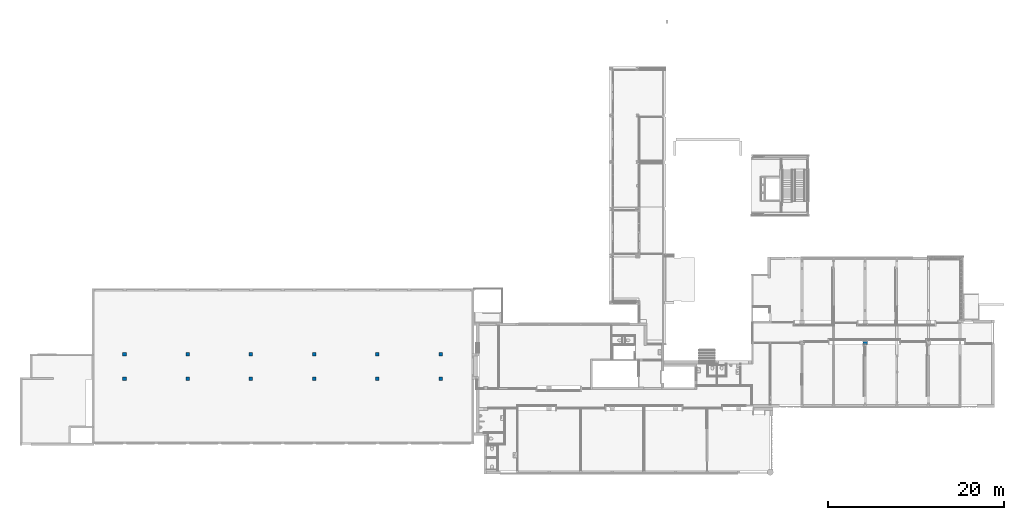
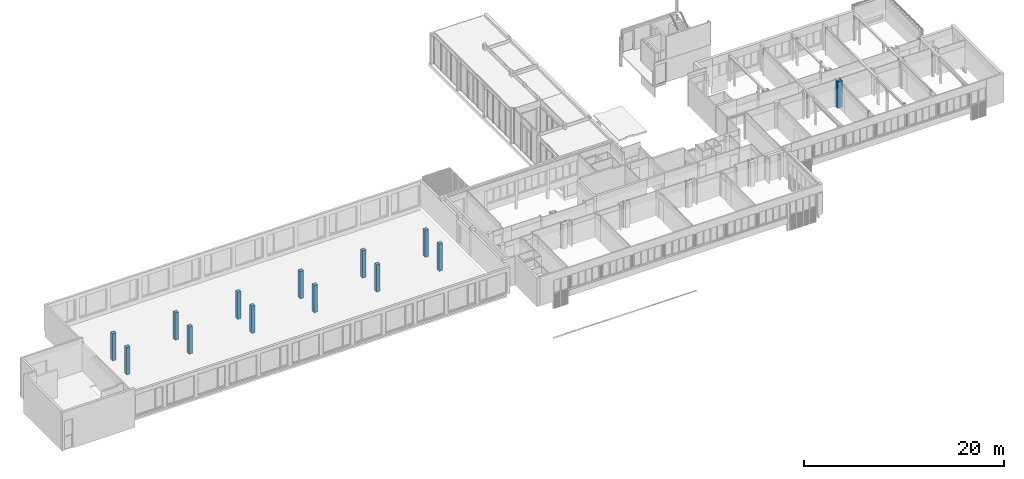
# One storey, part 1 of 99: 14 columns.
"""IFC2X3 building model written with IfcOpenShell, lengths in millimetres."""

from ifc_helpers import new_model, entity, si_unit, converted_unit, derived_unit, money_unit, direction, frame, origin_with_axes, place, context, subcontext, project, spatial, faceted_brep, source, transform, mapped, material, type_object, type_shapes, element, save


model = new_model("IFC2X3")

# Units and contexts
model_context = context("Model", 3, precision=0.01, world=origin_with_axes(), true_north=direction((0.0, 1.0)))
body_context = subcontext(model_context, "Body", "Model", "MODEL_VIEW")
ifc_project = project(units=[si_unit("LENGTHUNIT", "METRE", prefix="MILLI"), si_unit("AREAUNIT", "SQUARE_METRE"), si_unit("VOLUMEUNIT", "CUBIC_METRE"), converted_unit("PLANEANGLEUNIT", "DEGREE", entity("IfcPlaneAngleMeasure", 0.0174532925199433), si_unit("PLANEANGLEUNIT", "RADIAN"), dimensions=[0, 0, 0, 0, 0, 0, 0]), money_unit("EUR"), converted_unit("TIMEUNIT", "Year", entity("IfcTimeMeasure", 31557600.0), si_unit("TIMEUNIT", "SECOND"), dimensions=[0, 0, 1, 0, 0, 0, 0]), si_unit("MASSUNIT", "GRAM", prefix="KILO"), si_unit("THERMODYNAMICTEMPERATUREUNIT", "DEGREE_CELSIUS"), si_unit("LUMINOUSINTENSITYUNIT", "LUMEN"), si_unit("ENERGYUNIT", "JOULE", prefix="MEGA"), derived_unit("THERMALCONDUCTANCEUNIT", [(si_unit("POWERUNIT", "WATT"), 1), (si_unit("LENGTHUNIT", "METRE"), -1), (si_unit("THERMODYNAMICTEMPERATUREUNIT", "KELVIN"), -1)]), derived_unit("SPECIFICHEATCAPACITYUNIT", [(si_unit("ENERGYUNIT", "JOULE"), 1), (si_unit("MASSUNIT", "GRAM", prefix="KILO"), -1), (si_unit("THERMODYNAMICTEMPERATUREUNIT", "KELVIN"), -1)]), derived_unit("MASSDENSITYUNIT", [(si_unit("MASSUNIT", "GRAM", prefix="KILO"), 1), (si_unit("VOLUMEUNIT", "CUBIC_METRE"), -1)])], contexts=[model_context])

# Site, building, storey
site_placement = place(None, origin_with_axes())
site = spatial("IfcSite", under=ifc_project, at=site_placement, Name="Site", CompositionType="ELEMENT")
building_placement = place(site_placement, origin_with_axes())
building = spatial("IfcBuilding", under=site, at=building_placement, Name="Naam gebouw", CompositionType="ELEMENT")
storey_placement = place(building_placement, frame((0.0, 0.0, 7650.0), z_axis=(0.0, 0.0, 1.0), x_axis=(1.0, 0.0, 0.0)))
storey = spatial("IfcBuildingStorey", under=building, at=storey_placement, Name="2e verdieping N", CompositionType="ELEMENT", Elevation=7650.0)

# Columns
ifc_material = material(Name="ALG - CONSTRUCTIEF")
column_type_1 = type_object("IfcColumnType", Name="ALG - CONSTRUCTIEF 540 x 310", PredefinedType="COLUMN")
shared_shape = source(origin_with_axes(), body_context, "Body", "Brep", [
    faceted_brep([(43469.99999999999, 17870.91242510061, 10850.0), (43469.99999999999, 17870.91242510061, 7650.0), (43469.99999999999, 18180.91242510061, 7650.0), (43469.99999999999, 18180.91242510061, 10850.0), (42929.99999999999, 17870.91242510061, 10850.0), (42929.99999999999, 17870.91242510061, 7650.0), (42929.99999999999, 18180.91242510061, 7650.0), (42929.99999999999, 18180.91242510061, 10850.0)], [[[0, 1, 2, 3]], [[4, 5, 1, 0]], [[5, 6, 2, 1]], [[3, 2, 6, 7]], [[4, 0, 3, 7]], [[7, 6, 5, 4]]]),
])
type_shapes(column_type_1, [shared_shape])
for number, where, z_axis, x_axis, name in (
    (1, (43199.99999999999, 18025.91242510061, -99.99999999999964), (0.0, 0.0, 1.0), (1.0, 0.0, 0.0), "_Kolom-x"),
    (2, (43199.99999999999, 18025.91242510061, -99.99999999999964), (0.0, 0.0, 1.0), (1.0, 0.0, 0.0), "_Kolom-x"),
):
    element("IfcColumn", number, at=place(storey_placement, frame(where, z_axis=z_axis, x_axis=x_axis)), inside=storey, type_object=column_type_1, material=ifc_material, Name=name, ObjectType="COLUMN", context=body_context, shape_type="MappedRepresentation", body=[
        mapped(shared_shape, transform((-43199.99999999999, -18025.91242510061, -7550.000000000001))),
    ])
column_type_2 = type_object("IfcColumnType", Name="ALG - CONSTRUCTIEF 400 x 400", PredefinedType="COLUMN")
column_1_placement = place(storey_placement, frame((-5150.0, 16765.57502437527, -539.9999999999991), z_axis=(0.0, 0.0, 1.0), x_axis=(1.0, 0.0, 0.0)))
element("IfcColumn", 3, at=column_1_placement, inside=storey, type_object=column_type_2, material=ifc_material, Name="_Kolom-x", ObjectType="COLUMN", context=body_context, shape_type="Brep", body=[
    faceted_brep([(200.0000000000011, -199.9999999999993, 3400.0), (200.0000000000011, -199.9999999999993, 79.99999999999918), (200.0000000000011, 199.9999999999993, 79.99999999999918), (200.0000000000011, 199.9999999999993, 3400.0), (-200.0000000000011, -199.9999999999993, 3400.0), (-200.0000000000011, -199.9999999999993, 79.99999999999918), (-200.0000000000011, 199.9999999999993, 79.99999999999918), (-200.0000000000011, 199.9999999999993, 3400.0)], [[[0, 1, 2, 3]], [[4, 5, 1, 0]], [[5, 6, 2, 1]], [[3, 2, 6, 7]], [[3, 7, 4, 0]], [[7, 6, 5, 4]]]),
])
column_2_placement = place(storey_placement, frame((-12350.0, 13965.57502437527, -539.9999999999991), z_axis=(0.0, 0.0, 1.0), x_axis=(1.0, 0.0, 0.0)))
element("IfcColumn", 4, at=column_2_placement, inside=storey, type_object=column_type_2, material=ifc_material, Name="_Kolom-x", ObjectType="COLUMN", context=body_context, shape_type="Brep", body=[
    faceted_brep([(199.9999999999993, -199.9999999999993, 3400.0), (199.9999999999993, -199.9999999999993, 79.99999999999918), (199.9999999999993, 199.9999999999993, 79.99999999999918), (199.9999999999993, 199.9999999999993, 3400.0), (-199.9999999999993, -199.9999999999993, 3400.0), (-199.9999999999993, -199.9999999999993, 79.99999999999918), (-199.9999999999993, 199.9999999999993, 79.99999999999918), (-199.9999999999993, 199.9999999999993, 3400.0)], [[[0, 1, 2, 3]], [[4, 5, 1, 0]], [[5, 6, 2, 1]], [[3, 2, 6, 7]], [[3, 7, 4, 0]], [[7, 6, 5, 4]]]),
])
column_3_placement = place(storey_placement, frame((-5150.0, 13965.57502437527, -539.9999999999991), z_axis=(0.0, 0.0, 1.0), x_axis=(1.0, 0.0, 0.0)))
element("IfcColumn", 5, at=column_3_placement, inside=storey, type_object=column_type_2, material=ifc_material, Name="_Kolom-x", ObjectType="COLUMN", context=body_context, shape_type="Brep", body=[
    faceted_brep([(200.0000000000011, -199.9999999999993, 3400.0), (200.0000000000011, -199.9999999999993, 79.99999999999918), (200.0000000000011, 199.9999999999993, 79.99999999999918), (200.0000000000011, 199.9999999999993, 3400.0), (-200.0000000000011, -199.9999999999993, 3400.0), (-200.0000000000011, -199.9999999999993, 79.99999999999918), (-200.0000000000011, 199.9999999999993, 79.99999999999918), (-200.0000000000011, 199.9999999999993, 3400.0)], [[[0, 1, 2, 3]], [[4, 5, 1, 0]], [[5, 6, 2, 1]], [[3, 2, 6, 7]], [[3, 7, 4, 0]], [[7, 6, 5, 4]]]),
])
for number, where, z_axis, x_axis, name in (
    (6, (-19550.0, 13965.57502437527, -539.9999999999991), (0.0, 0.0, 1.0), (1.0, 0.0, 0.0), "_Kolom-x"),
    (7, (-19550.0, 16765.57502437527, -539.9999999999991), (0.0, 0.0, 1.0), (1.0, 0.0, 0.0), "_Kolom-x"),
    (8, (-26750.0, 13965.57502437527, -539.9999999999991), (0.0, 0.0, 1.0), (1.0, 0.0, 0.0), "_Kolom-x"),
    (9, (-26750.0, 16765.57502437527, -539.9999999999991), (0.0, 0.0, 1.0), (1.0, 0.0, 0.0), "_Kolom-x"),
    (10, (-12350.0, 16765.81336172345, -539.9999999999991), (0.0, 0.0, 1.0), (1.0, 0.0, 0.0), "_Kolom-x"),
):
    element("IfcColumn", number, at=place(storey_placement, frame(where, z_axis=z_axis, x_axis=x_axis)), inside=storey, type_object=column_type_2, material=ifc_material, Name=name, ObjectType="COLUMN", context=body_context, shape_type="Brep", body=[
        faceted_brep([(199.9999999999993, -199.9999999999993, 3400.0), (199.9999999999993, -199.9999999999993, 79.99999999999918), (199.9999999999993, 199.9999999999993, 79.99999999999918), (199.9999999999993, 199.9999999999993, 3400.0), (-199.9999999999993, -199.9999999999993, 3400.0), (-199.9999999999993, -199.9999999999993, 79.99999999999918), (-199.9999999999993, 199.9999999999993, 79.99999999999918), (-199.9999999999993, 199.9999999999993, 3400.0)], [[[0, 1, 2, 3]], [[4, 5, 1, 0]], [[5, 6, 2, 1]], [[3, 2, 6, 7]], [[3, 7, 4, 0]], [[7, 6, 5, 4]]]),
    ])
for number, where, z_axis, x_axis, name in (
    (11, (-33950.0, 13965.57502437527, -539.9999999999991), (0.0, 0.0, 1.0), (1.0, 0.0, 0.0), "_Kolom-x"),
    (12, (-41150.0, 13968.3933001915, -539.9999999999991), (0.0, 0.0, 1.0), (1.0, 0.0, 0.0), "_Kolom-x"),
    (13, (-33950.0, 16765.74827356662, -539.9999999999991), (0.0, 0.0, 1.0), (1.0, 0.0, 0.0), "_Kolom-x"),
    (14, (-41150.00000000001, 16765.74827356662, -539.9999999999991), (0.0, 0.0, 1.0), (1.0, 0.0, 0.0), "_Kolom-x"),
):
    element("IfcColumn", number, at=place(storey_placement, frame(where, z_axis=z_axis, x_axis=x_axis)), inside=storey, type_object=column_type_2, material=ifc_material, Name=name, ObjectType="COLUMN", context=body_context, shape_type="Brep", body=[
        faceted_brep([(200.0000000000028, -199.9999999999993, 3400.0), (200.0000000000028, -199.9999999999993, 79.99999999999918), (200.0000000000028, 199.9999999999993, 79.99999999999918), (200.0000000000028, 199.9999999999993, 3400.0), (-200.0000000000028, -199.9999999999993, 3400.0), (-200.0000000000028, -199.9999999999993, 79.99999999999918), (-200.0000000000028, 199.9999999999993, 79.99999999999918), (-200.0000000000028, 199.9999999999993, 3400.0)], [[[0, 1, 2, 3]], [[4, 5, 1, 0]], [[5, 6, 2, 1]], [[3, 2, 6, 7]], [[3, 7, 4, 0]], [[7, 6, 5, 4]]]),
    ])

save(model, "model.ifc")
